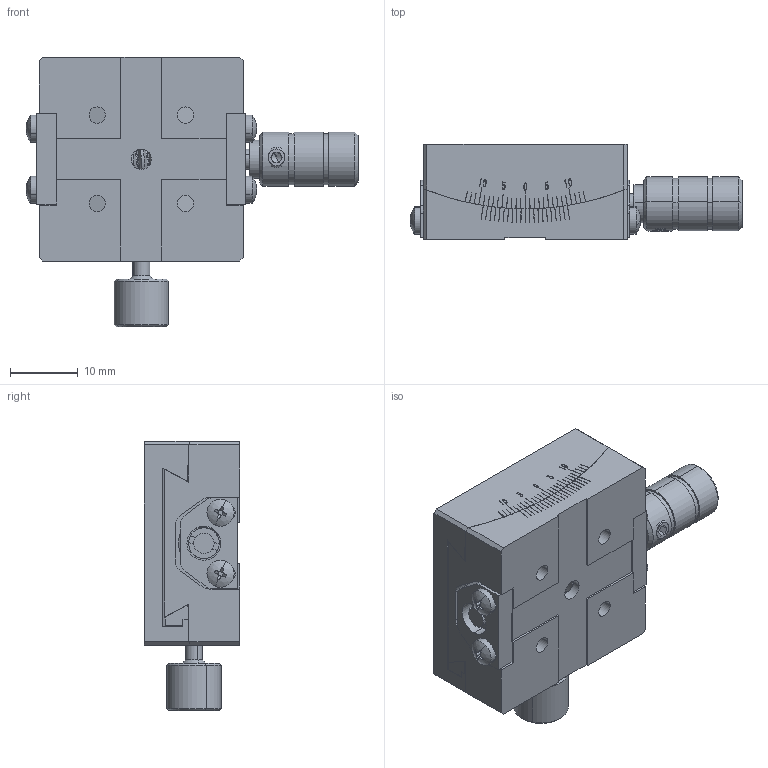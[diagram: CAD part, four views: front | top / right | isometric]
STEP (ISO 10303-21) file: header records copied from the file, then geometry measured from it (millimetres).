
FILE_DESCRIPTION (( 'STEP AP203' ), '1' );
FILE_NAME ('BFSG30-30.STEP', '2024-07-29T11:21:08', ( '微软用户' ), ( '微软中国' ), 'SwSTEP 2.0', 'SolidWorks 2024', '' );
FILE_SCHEMA (( 'CONFIG_CONTROL_DESIGN' ));
Length unit declared in the file: millimetre
Products named in the file (1): BFSG30-30
Bounding box: 48.88 x 14 x 39.66 mm (x, y, z)
Volume: 12375.7 mm3; surface area: 10087.9 mm2
Topology: 14 solids, 14 shells, 636 faces, 1813 edges, 1218 vertices
Faces by surface type: plane 385, cylinder 181, cone 52, sphere 8, bspline 5, torus 5
Entity records: 28642 total; most frequent: CARTESIAN_POINT 11959, ORIENTED_EDGE 3578, DIRECTION 3352, EDGE_CURVE 1789, VERTEX_POINT 1218, AXIS2_PLACEMENT_3D 1143, VECTOR 1066, LINE 1066
